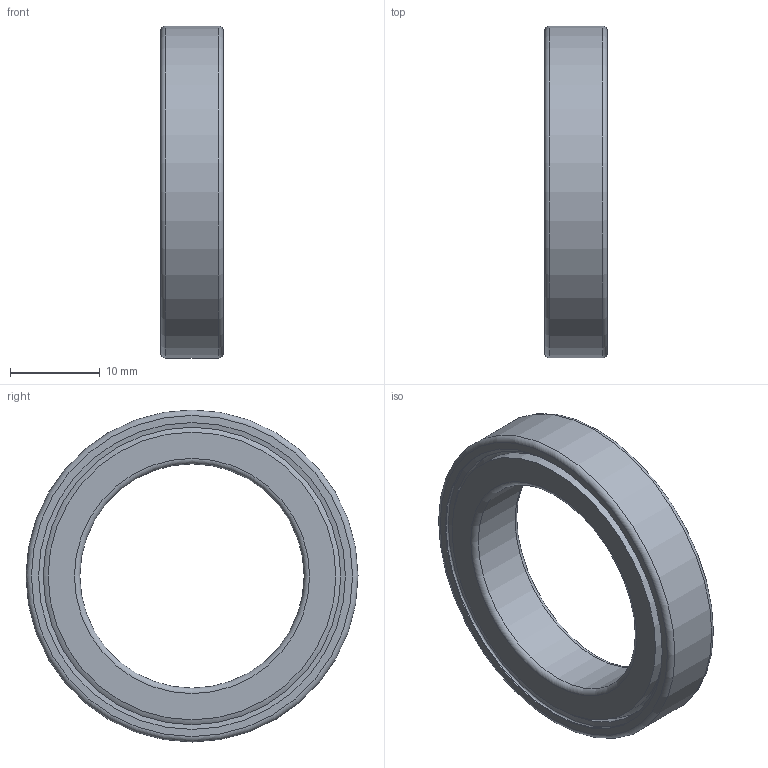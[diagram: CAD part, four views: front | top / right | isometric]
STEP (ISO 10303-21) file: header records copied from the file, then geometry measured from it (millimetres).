
FILE_DESCRIPTION(/* description */ ('STEP AP242 Edition 2','CAx-IF Rec.Pracs.---Representation and Presentation of Product Manufacturing Information (PMI)---4.0---2014-10-13','CAx-IF Rec.Pracs.---3D Tessellated Geometry---0.4---2014-09-14','2;1','CAx-IF Rec.Pracs.---User Defined Attributes---1.5---2016-08-15'),/* implementation_level */ '2;1');
FILE_NAME(/* name */ 'Assy_ForMFG - SKF-61805 (2)',/* time_stamp */ '2026-05-15T19:56:56Z',/* author */ (''),/* organization */ (''),/* preprocessor_version */ 'ST-DEVELOPER v20',/* originating_system */ 'ONSHAPE BY PTC INC, 1.215',/* authorisation */ ' ');
FILE_SCHEMA (('AP242_MANAGED_MODEL_BASED_3D_ENGINEERING_MIM_LF { 1 0 10303 442 3 1 4 }'));
Length unit declared in the file: metre
Products named in the file (1): SKF-61805
Bounding box: 7 x 37 x 37 mm (x, y, z)
Volume: 3818.4 mm3; surface area: 3085.2 mm2
Topology: 1 solids, 1 shells, 22 faces, 47 edges, 29 vertices
Faces by surface type: torus 8, cylinder 8, plane 4, cone 2
Full cylindrical faces by diameter (mm): 25 x1, 32.058 x2, 33.15 x2, 34.2 x2, 37 x1
Entity records: 470 total; most frequent: DIRECTION 90, CARTESIAN_POINT 67, AXIS2_PLACEMENT_3D 45, ORIENTED_EDGE 44, EDGE_LOOP 44, FACE_BOUND 44, EDGE_CURVE 22, VERTEX_POINT 22
